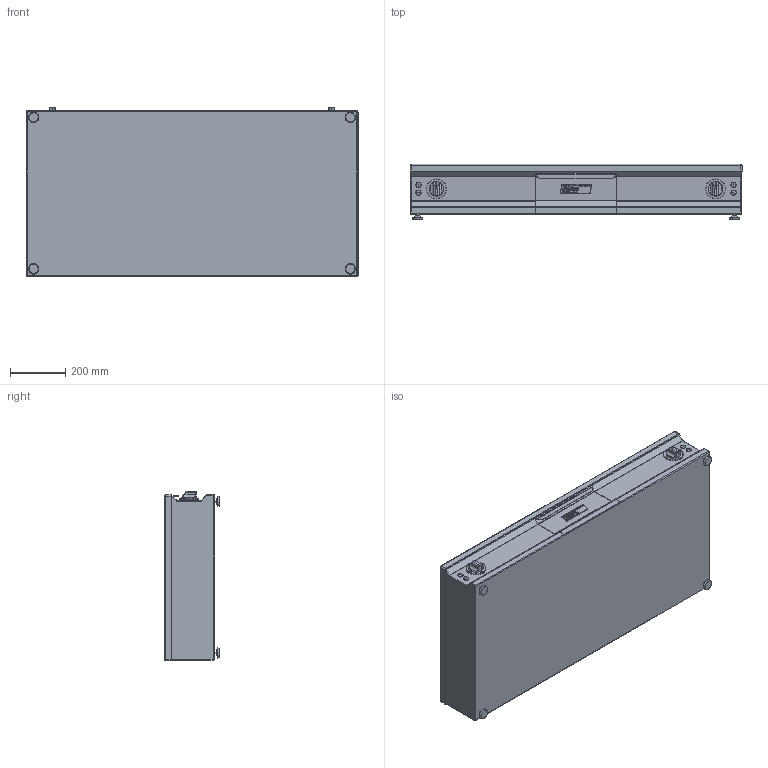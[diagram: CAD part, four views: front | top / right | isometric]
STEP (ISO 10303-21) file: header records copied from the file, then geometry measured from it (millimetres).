
FILE_DESCRIPTION (( 'STEP AP214' ), '1' );
FILE_NAME ('MS-G-120.STEP', '2015-08-05T07:11:31', ( 'T. Weiss' ), ( 'Menusystem AG' ), 'SwSTEP 2.0', 'SolidWorks 2012', '' );
FILE_SCHEMA (( 'AUTOMOTIVE_DESIGN' ));
Length unit declared in the file: millimetre
Products named in the file (1): MS-G-120
Bounding box: 1200 x 200.01 x 613.71 mm (x, y, z)
Volume: 119894283.6 mm3; surface area: 2310346 mm2
Topology: 11 solids, 11 shells, 651 faces, 1687 edges, 1066 vertices
Faces by surface type: plane 320, cylinder 171, bspline 118, cone 42
Entity records: 25793 total; most frequent: CARTESIAN_POINT 10323, ORIENTED_EDGE 3326, DIRECTION 2965, EDGE_CURVE 1663, VERTEX_POINT 1066, VECTOR 1017, LINE 1017, AXIS2_PLACEMENT_3D 974
